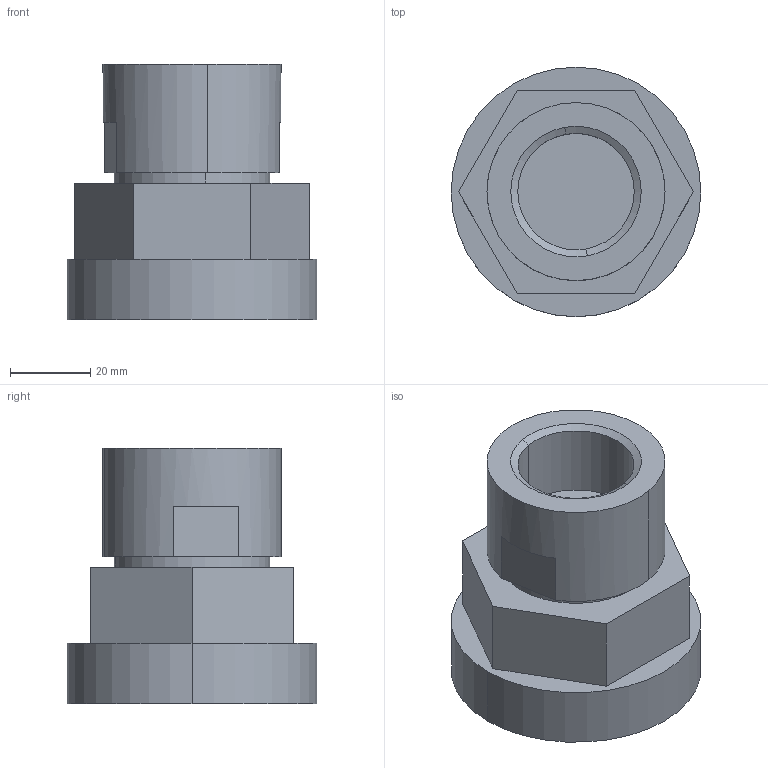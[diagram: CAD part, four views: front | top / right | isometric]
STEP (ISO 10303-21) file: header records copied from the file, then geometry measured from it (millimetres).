
FILE_DESCRIPTION (( 'STEP AP214' ), '1' );
FILE_NAME ('16-fnpt-top-out.STEP', '2012-12-03T21:23:55', ( '' ), ( '' ), 'SwSTEP 2.0', 'SolidWorks 2012', '' );
FILE_SCHEMA (( 'AUTOMOTIVE_DESIGN' ));
Length unit declared in the file: inch
Products named in the file (1): 16-fnpt-top-out
Bounding box: 62.33 x 62.33 x 63.91 mm (x, y, z)
Volume: 120779.4 mm3; surface area: 18927.1 mm2
Topology: 1 solids, 1 shells, 26 faces, 58 edges, 38 vertices
Faces by surface type: plane 16, cylinder 8, cone 2
Entity records: 807 total; most frequent: DIRECTION 134, CARTESIAN_POINT 123, ORIENTED_EDGE 116, EDGE_CURVE 58, AXIS2_PLACEMENT_3D 49, VERTEX_POINT 38, LINE 36, VECTOR 36
